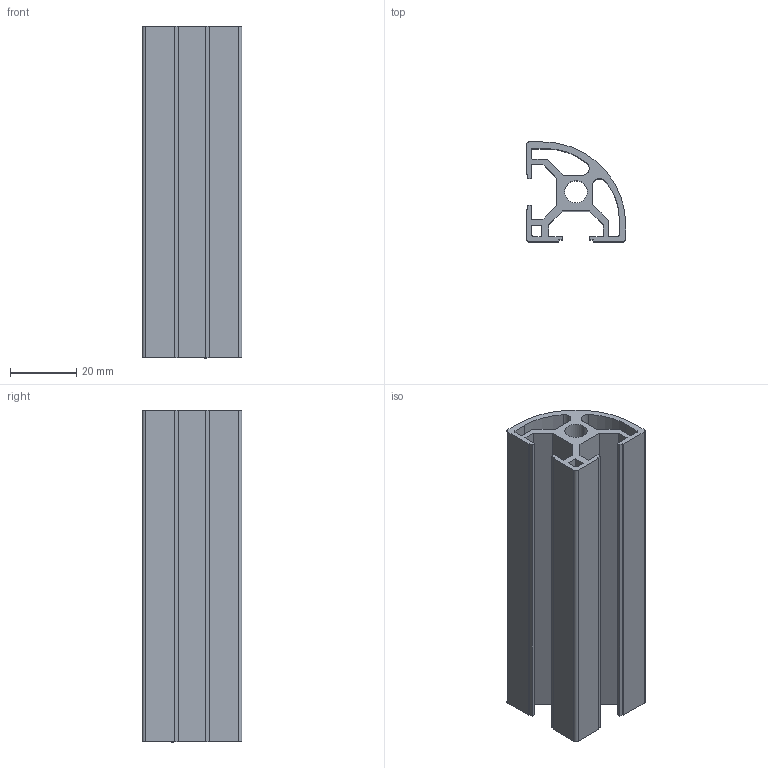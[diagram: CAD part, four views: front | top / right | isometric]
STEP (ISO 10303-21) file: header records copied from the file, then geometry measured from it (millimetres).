
FILE_DESCRIPTION (( 'STEP AP203' ), '1' );
FILE_NAME ('LIMA-3030CR-8.STEP', '2018-03-15T12:28:53', ( '' ), ( '' ), 'SwSTEP 2.0', 'SolidWorks 2013', '' );
FILE_SCHEMA (( 'CONFIG_CONTROL_DESIGN' ));
Length unit declared in the file: millimetre
Products named in the file (1): LIMA-3030CR-8
Bounding box: 30 x 30 x 100 mm (x, y, z)
Volume: 30240.3 mm3; surface area: 29429.8 mm2
Topology: 1 solids, 1 shells, 63 faces, 183 edges, 122 vertices
Faces by surface type: plane 48, cylinder 13, bspline 2
Entity records: 2214 total; most frequent: CARTESIAN_POINT 455, ORIENTED_EDGE 366, DIRECTION 325, EDGE_CURVE 183, VECTOR 149, LINE 149, VERTEX_POINT 122, AXIS2_PLACEMENT_3D 88
